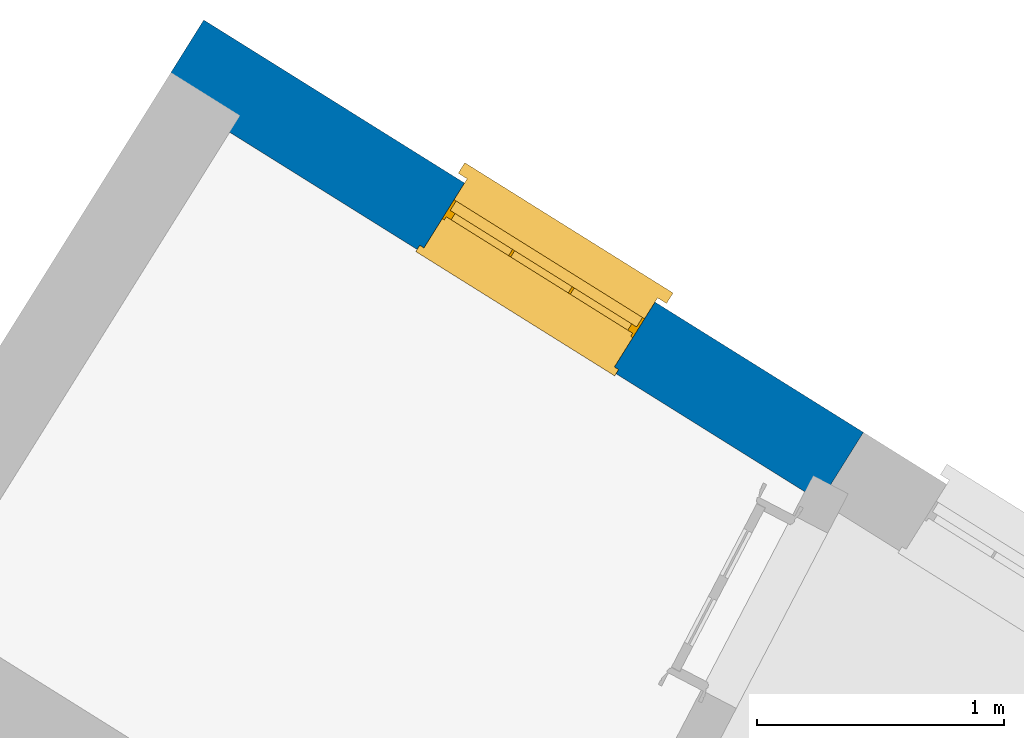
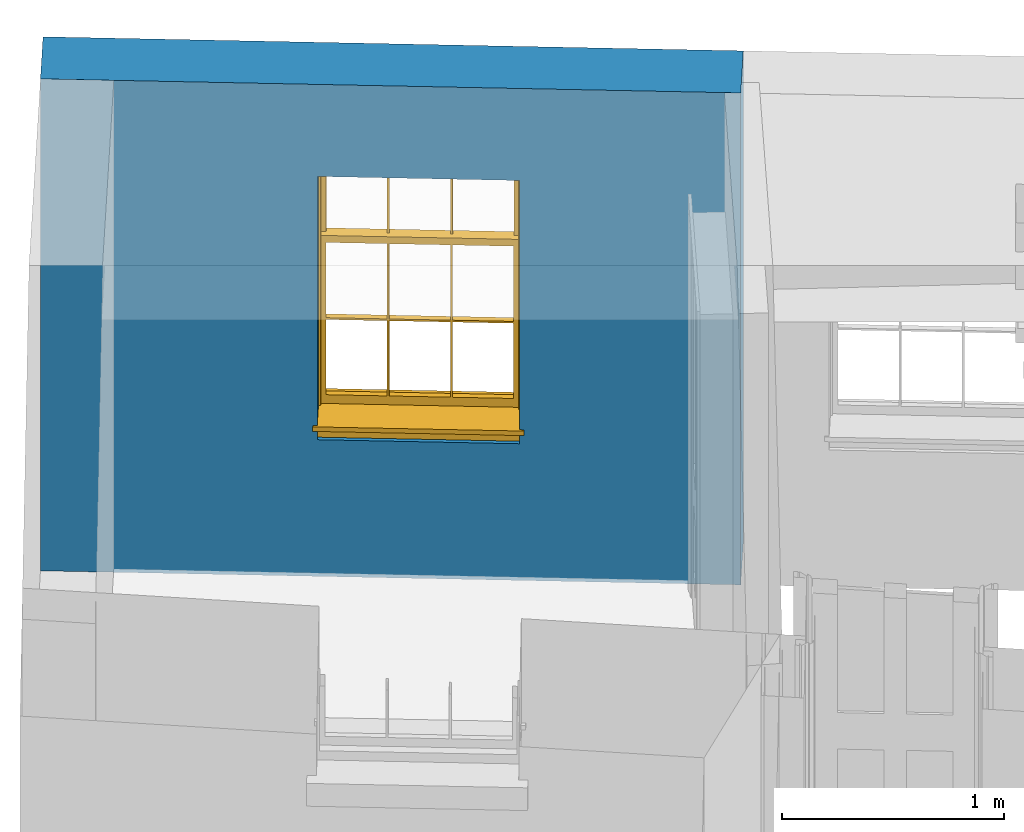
# One storey, part 3 of 4: 1 wall, 1 window, 1 opening.
"""IFC4 building model written with IfcOpenShell, lengths in metres."""

from ifc_helpers import new_model, si_unit, frame, origin, origin_with_axes, place, context, subcontext, project, spatial, polyline, outline, extrude, faceted_brep, source, transform, mapped, material, layer, layer_set, layer_usage, type_object, type_shapes, element, fill, save


model = new_model("IFC4")

# Units and contexts
model_context = context("Model", 3, world=origin_with_axes())
body_context = subcontext(model_context, "Body", "Model", "MODEL_VIEW")
ifc_project = project(units=[si_unit("PLANEANGLEUNIT", "RADIAN"), si_unit("MASSUNIT", "GRAM", prefix="KILO"), si_unit("FORCEUNIT", "NEWTON", prefix="KILO"), si_unit("LENGTHUNIT", "METRE"), si_unit("AREAUNIT", "SQUARE_METRE"), si_unit("VOLUMEUNIT", "CUBIC_METRE")], contexts=[model_context, model_context])

# Sites, building, storey
site_1_placement = place(None, origin_with_axes())
site_1 = spatial("IfcSite", under=ifc_project, at=site_1_placement, Name="Tamar")
site_2_placement = place(site_1_placement, origin_with_axes())
site_2 = spatial("IfcSite", under=site_1, at=site_2_placement, Name="Site plot-3", CompositionType="ELEMENT")
building_placement = place(None, origin_with_axes())
building = spatial("IfcBuilding", under=site_2, at=building_placement, Name="Building plot-3", CompositionType="ELEMENT")
storey_placement = place(None, frame((0.0, 0.0, 27.8), z_axis=(0.0, 0.0, 1.0), x_axis=(1.0, 0.0, 0.0)))
storey = spatial("IfcBuildingStorey", under=building, at=storey_placement, Name="plot-3 1", CompositionType="ELEMENT", Elevation=27.8)

# Wall, opening, window
ifc_material = material(Name="Masonry")
ifc_layer = layer(ifc_material, 0.33, ventilated=False)
ifc_layer_set = layer_set([ifc_layer], Name="exterior_0.08_0.25")
ifc_layer_usage = layer_usage(ifc_layer_set, "AXIS2", "POSITIVE", -0.25)
wall_type = type_object("IfcWallType", Name="exterior_0.08_0.25", PredefinedType="SOLIDWALL", material=ifc_layer_set)
wall_placement = place(storey_placement, frame((217.438741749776, 288.244127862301, 0.0), z_axis=(0.0, 0.0, 1.0), x_axis=(-0.847981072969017, 0.530026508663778, 0.0)))
wall = element("IfcWall", 1, at=wall_placement, inside=storey, type_object=wall_type, material=ifc_layer_usage, Name="exterior", context=body_context, shape_type="SweptSolid", body=[
    extrude(outline(polyline([(1.258150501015e-14, 0.0799999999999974), (-4.90565496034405e-14, -0.24999999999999), (3.15049325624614, -0.250000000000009), (3.15049325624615, 0.0800000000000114), (1.258150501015e-14, 0.0799999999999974)])), origin_with_axes(), (0.0, 0.0, 1.0), 2.7),
])
opening_placement = place(wall_placement, frame((0.99524662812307, 0.0, 0.75)))
opening = element("IfcOpeningElement", 2, at=opening_placement, cuts=wall, Name="My Opening", ObjectType="Opening", context=body_context, shape_type="SweptSolid", body=[
    extrude(outline(polyline([(0.0, -0.270000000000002), (0.910000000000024, -0.270000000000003), (0.910000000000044, 1.09999999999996), (2.03170813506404e-14, 1.09999999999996), (0.0, -0.270000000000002)])), origin_with_axes(), (0.0, 0.0, 1.0), 1.445),
])
window_type = type_object("IfcWindowType", Name="sash_shorter", PartitioningType="DOUBLE_PANEL_HORIZONTAL", PredefinedType="NOTDEFINED")
shared_shape = source(origin(), body_context, "Body", "Brep", [
    faceted_brep([(0.876875, 0.145, 0.999097), (0.876875, 0.145, 1.411875), (0.9, 0.145, 1.435), (0.033125, 0.145, 1.411875), (0.033125, 0.145, 0.999097), (0.01, 0.145, 1.435), (0.033125, 0.115, 1.411875), (0.01, 0.115, 1.435), (0.033125, 0.115, 0.999097), (0.876875, 0.115, 1.411875), (0.876875, 0.115, 0.999097), (0.9, 0.115, 1.435), (0.033125, 0.145, 0.960972), (0.01, 0.145, 0.960972), (0.033125, 0.145, 0.548195), (0.876875, 0.145, 0.960972), (0.876875, 0.145, 0.548195), (0.9, 0.145, 0.960972), (0.876875, 0.145, 0.538195), (0.876875, 0.145, 0.125417), (0.9, 0.145, 0.077167), (0.033125, 0.145, 0.125417), (0.033125, 0.145, 0.538195), (0.01, 0.145, 0.077167), (0.9, 0.115, 0.960972), (0.01, 0.115, 0.960972), (-0.0425, 0.0, 0.01), (-0.0425, -0.05, 0.001667), (0.0, 0.0, 0.01), (0.9525, 0.0, 0.01), (0.91, 0.0, 0.01), (0.9525, -0.05, 0.001667), (-0.02, 0.33, 0.077167), (0.0, 0.33, 0.077167), (-0.02, 0.36, 0.077167), (0.0, 0.19, 0.077167), (0.01, 0.19, 0.077167), (0.91, 0.19, 0.077167), (0.91, 0.33, 0.077167), (0.9, 0.19, 0.077167), (0.93, 0.33, 0.077167), (0.93, 0.36, 0.077167), (0.01, 0.145, 0.999097), (0.01, 0.175, 0.999097), (0.9, 0.145, 0.999097), (0.9, 0.175, 0.999097), (0.876875, 0.175, 0.125417), (0.876875, 0.175, 0.538195), (0.9, 0.175, 0.077167), (0.876875, 0.175, 0.548195), (0.876875, 0.175, 0.960972), (0.033125, 0.175, 0.125417), (0.01, 0.175, 0.077167), (0.033125, 0.175, 0.538195), (0.033125, 0.175, 0.960972), (0.033125, 0.175, 0.548195), (-0.02, 0.33, 0.052167), (-0.02, 0.36, 0.052167), (0.93, 0.36, 0.052167), (0.93, 0.33, 0.052167), (0.91, 0.33, 0.052167), (0.0, 0.33, 0.052167), (0.91, 0.1, 0.026667), (0.0, 0.1, 0.026667), (-0.0425, -0.05, -0.123333), (0.9525, -0.05, -0.123333), (-0.0425, 0.0, -0.123333), (0.9525, 0.0, -0.123333), (0.01, 0.19, 1.435), (0.9, 0.19, 1.435), (0.0, 0.19, 1.445), (0.91, 0.19, 1.445), (0.01, 0.1, 0.077167), (0.9, 0.1, 0.077167), (0.592292, 0.145, 0.125417), (0.592292, 0.175, 0.125417), (0.317708, 0.175, 0.125417), (0.317708, 0.145, 0.125417), (0.592292, 0.145, 0.548195), (0.317708, 0.145, 0.548195), (0.317708, 0.145, 0.538195), (0.592292, 0.145, 0.538195), (0.592292, 0.175, 0.548195), (0.317708, 0.175, 0.548195), (0.602292, 0.175, 0.548195), (0.602292, 0.145, 0.548195), (0.317708, 0.175, 0.538195), (0.307708, 0.175, 0.125417), (0.307708, 0.175, 0.538195), (0.602292, 0.175, 0.538195), (0.602292, 0.175, 0.125417), (0.592292, 0.175, 0.538195), (0.307708, 0.175, 0.548195), (0.317708, 0.175, 0.960972), (0.307708, 0.175, 0.960972), (0.602292, 0.175, 0.960972), (0.592292, 0.175, 0.960972), (0.307708, 0.145, 0.538195), (0.307708, 0.145, 0.125417), (0.307708, 0.145, 0.548195), (0.307708, 0.145, 0.960972), (0.592292, 0.145, 0.960972), (0.317708, 0.145, 0.960972), (0.602292, 0.145, 0.960972), (0.602292, 0.145, 0.538195), (0.602292, 0.145, 0.125417), (0.317708, 0.115, 1.411875), (0.307708, 0.115, 1.411875), (0.307708, 0.115, 0.999097), (0.317708, 0.115, 0.999097), (0.602292, 0.115, 1.411875), (0.592292, 0.115, 1.411875), (0.592292, 0.115, 0.999097), (0.602292, 0.115, 0.999097), (0.317708, 0.145, 0.999097), (0.307708, 0.145, 0.999097), (0.307708, 0.145, 1.411875), (0.317708, 0.145, 1.411875), (0.602292, 0.145, 0.999097), (0.592292, 0.145, 0.999097), (0.592292, 0.145, 1.411875), (0.602292, 0.145, 1.411875), (0.91, 0.1, 1.445), (0.9, 0.1, 1.435), (0.01, 0.1, 1.435), (0.0, 0.1, 1.445), (0.91, 0.0, 0.0), (0.0, 0.0, 0.0), (0.91, 0.33, 0.0), (0.0, 0.33, 0.0)], [[[0, 1, 2]], [[3, 4, 5]], [[6, 7, 8]], [[9, 10, 11]], [[12, 13, 14]], [[15, 16, 17]], [[18, 19, 20]], [[21, 22, 23]], [[24, 15, 17]], [[13, 12, 25]], [[26, 27, 28]], [[29, 30, 31]], [[32, 33, 34]], [[35, 36, 33]], [[37, 38, 39]], [[40, 41, 38]], [[42, 4, 43]], [[44, 45, 0]], [[46, 47, 48]], [[49, 50, 45]], [[51, 52, 53]], [[54, 55, 43]], [[38, 33, 36, 39]], [[41, 34, 33, 38]], [[56, 32, 34, 57]], [[57, 34, 41, 58]], [[58, 41, 40, 59]], [[57, 58, 60, 61]], [[52, 48, 39, 36]], [[62, 63, 28, 30]], [[27, 31, 30, 28]], [[27, 64, 65, 31]], [[66, 67, 65, 64]], [[2, 5, 68, 69]], [[68, 70, 71, 69]], [[20, 23, 72, 73]], [[73, 72, 63, 62]], [[74, 75, 76, 77]], [[78, 79, 80, 81]], [[78, 82, 83, 79]], [[16, 49, 84, 85]], [[86, 76, 87, 88]], [[89, 90, 75, 91]], [[92, 88, 53, 55]], [[82, 91, 86, 83]], [[93, 83, 92, 94]], [[95, 84, 82, 96]], [[89, 84, 49, 47]], [[97, 88, 87, 98]], [[22, 53, 88, 97]], [[81, 91, 75, 74]], [[80, 86, 91, 81]], [[77, 76, 86, 80]], [[99, 92, 55, 14]], [[100, 94, 92, 99]], [[101, 96, 82, 78]], [[79, 83, 93, 102]], [[85, 84, 95, 103]], [[104, 89, 47, 18]], [[105, 90, 89, 104]], [[104, 18, 16, 85]], [[80, 97, 98, 77]], [[104, 81, 74, 105]], [[103, 101, 78, 85]], [[99, 14, 22, 97]], [[102, 100, 99, 79]], [[106, 107, 108, 109]], [[110, 111, 112, 113]], [[114, 115, 116, 117]], [[118, 119, 120, 121]], [[107, 116, 115, 108]], [[111, 120, 119, 112]], [[109, 114, 117, 106]], [[113, 118, 121, 110]], [[85, 78, 81, 104]], [[84, 89, 91, 82]], [[83, 86, 88, 92]], [[79, 99, 97, 80]], [[109, 112, 119, 114]], [[102, 93, 96, 101]], [[106, 117, 120, 111]], [[98, 87, 51, 21]], [[6, 3, 116, 107]], [[110, 121, 1, 9]], [[19, 46, 90, 105]], [[26, 66, 64, 27]], [[29, 31, 65, 67]], [[25, 24, 112, 109]], [[11, 7, 106, 111]], [[75, 48, 52, 76]], [[43, 45, 96, 93]], [[45, 43, 114, 119]], [[5, 2, 120, 117]], [[24, 25, 102, 101]], [[42, 5, 4]], [[2, 44, 0]], [[49, 45, 48, 47]], [[52, 43, 55, 53]], [[14, 13, 23, 22]], [[20, 17, 16, 18]], [[24, 11, 10]], [[25, 8, 7]], [[8, 4, 3, 6]], [[9, 1, 0, 10]], [[15, 50, 49, 16]], [[18, 47, 46, 19]], [[21, 51, 53, 22]], [[14, 55, 54, 12]], [[44, 2, 69, 45]], [[68, 5, 42, 43]], [[36, 35, 70, 68]], [[39, 69, 71, 37]], [[62, 122, 123, 73]], [[63, 72, 124, 125]], [[8, 108, 115, 4]], [[113, 10, 0, 118]], [[94, 100, 12, 54]], [[17, 20, 73, 24]], [[72, 23, 13, 25]], [[52, 36, 68, 43]], [[69, 39, 48, 45]], [[11, 24, 73, 123]], [[7, 124, 72, 25]], [[23, 77, 98]], [[98, 21, 23]], [[105, 74, 20]], [[20, 19, 105]], [[20, 74, 77, 23]], [[113, 112, 24]], [[24, 10, 113]], [[25, 109, 108]], [[108, 8, 25]], [[110, 9, 11]], [[11, 111, 110]], [[7, 6, 107]], [[107, 106, 7]], [[5, 117, 116]], [[116, 3, 5]], [[121, 120, 2]], [[2, 1, 121]], [[11, 123, 124, 7]], [[122, 125, 124, 123]], [[43, 93, 94]], [[94, 54, 43]], [[96, 45, 95]], [[50, 95, 45]], [[15, 103, 95, 50]], [[48, 75, 90]], [[90, 46, 48]], [[87, 76, 52]], [[52, 51, 87]], [[103, 15, 24]], [[24, 101, 103]], [[100, 102, 25]], [[25, 12, 100]], [[115, 114, 43]], [[43, 4, 115]], [[118, 0, 45]], [[45, 119, 118]], [[71, 70, 125, 122]], [[70, 35, 63, 125]], [[122, 62, 37, 71]], [[126, 67, 66, 127]], [[60, 58, 59]], [[38, 60, 59, 40]], [[61, 56, 57]], [[32, 56, 61, 33]], [[61, 60, 128, 129]], [[62, 60, 38, 37]], [[126, 128, 60, 62]], [[33, 61, 63, 35]], [[61, 129, 127, 63]], [[128, 126, 127, 129]], [[28, 127, 66, 26]], [[63, 127, 28]], [[29, 67, 126, 30]], [[30, 126, 62]]]),
])
type_shapes(window_type, [shared_shape])
window_placement = place(storey_placement, frame((216.737898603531, 289.000589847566, 0.75), z_axis=(0.0, 0.0, 1.0), x_axis=(-0.771662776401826, 0.482324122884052, 0.0)))
window = element("IfcWindow", 3, at=window_placement, inside=storey, type_object=window_type, Name="toilet outside window", OverallHeight=1.445, OverallWidth=0.91, context=body_context, shape_type="MappedRepresentation", body=[
    mapped(shared_shape, transform((0.0, 0.0, 0.0), scale=1.0)),
])
fill(opening, window)

save(model, "model.ifc")
